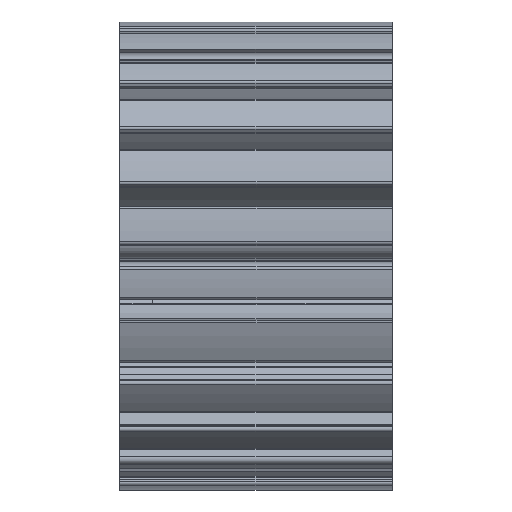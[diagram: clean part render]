
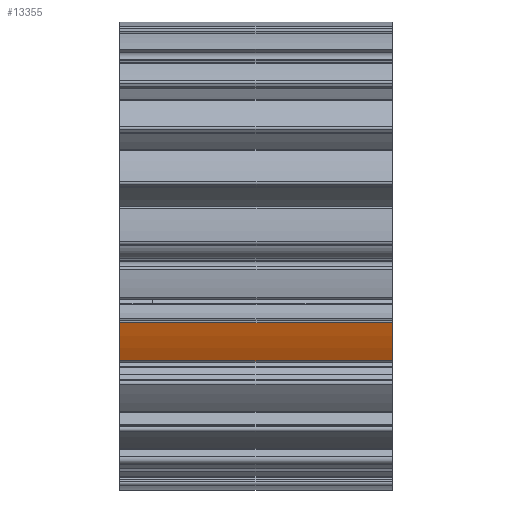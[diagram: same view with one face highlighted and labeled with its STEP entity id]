
A CAD part, left-side view. The second image highlights one B-rep face of the part: STEP entity #13355.
In plain terms, the highlighted cylindrical face has radius 43 mm (diameter 86 mm), a partial arc.
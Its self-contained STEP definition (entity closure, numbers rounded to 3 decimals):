
#237 = ORIENTED_EDGE ( 'NONE', *, *, #2405, .T. ) ;
#377 = VERTEX_POINT ( 'NONE', #12265 ) ;
#1345 = DIRECTION ( 'NONE',  ( 0., 1., 0. ) ) ;
#1602 = EDGE_CURVE ( 'NONE', #17473, #5846, #14636, .T. ) ;
#1964 = CARTESIAN_POINT ( 'NONE',  ( -41.215, 24.172, -12.261 ) ) ;
#2405 = EDGE_CURVE ( 'NONE', #8678, #377, #17174, .T. ) ;
#2478 = CIRCLE ( 'NONE', #4130, 43. ) ;
#2624 = CARTESIAN_POINT ( 'NONE',  ( 0., 74.172, 0. ) ) ;
#3249 = FACE_OUTER_BOUND ( 'NONE', #14637, .T. ) ;
#3559 = AXIS2_PLACEMENT_3D ( 'NONE', #14717, #17411, #6667 ) ;
#3597 = EDGE_CURVE ( 'NONE', #8678, #5846, #2478, .T. ) ;
#4001 = DIRECTION ( 'NONE',  ( 0., 0., 1. ) ) ;
#4130 = AXIS2_PLACEMENT_3D ( 'NONE', #2624, #12098, #4001 ) ;
#4599 = DIRECTION ( 'NONE',  ( 0., -1., 0. ) ) ;
#5379 = CARTESIAN_POINT ( 'NONE',  ( 0., 24.172, 0. ) ) ;
#5737 = AXIS2_PLACEMENT_3D ( 'NONE', #5379, #14833, #6767 ) ;
#5846 = VERTEX_POINT ( 'NONE', #9437 ) ;
#5999 = CARTESIAN_POINT ( 'NONE',  ( -38.466, -4.487, -19.218 ) ) ;
#6667 = DIRECTION ( 'NONE',  ( 0., 0., 1. ) ) ;
#6767 = DIRECTION ( 'NONE',  ( 0., 0., -1. ) ) ;
#8678 = VERTEX_POINT ( 'NONE', #16858 ) ;
#9236 = ORIENTED_EDGE ( 'NONE', *, *, #10729, .T. ) ;
#9437 = CARTESIAN_POINT ( 'NONE',  ( -41.215, 74.172, -12.261 ) ) ;
#10729 = EDGE_CURVE ( 'NONE', #377, #17473, #16770, .T. ) ;
#11230 = VECTOR ( 'NONE', #4599, 1000. ) ;
#11460 = VECTOR ( 'NONE', #1345, 1000. ) ;
#12098 = DIRECTION ( 'NONE',  ( 0., 1., 0. ) ) ;
#12265 = CARTESIAN_POINT ( 'NONE',  ( -38.466, 24.172, -19.218 ) ) ;
#13355 = ADVANCED_FACE ( 'NONE', ( #3249 ), #13626, .T. ) ;
#13626 = CYLINDRICAL_SURFACE ( 'NONE', #3559, 43. ) ;
#14107 = ORIENTED_EDGE ( 'NONE', *, *, #1602, .T. ) ;
#14248 = ORIENTED_EDGE ( 'NONE', *, *, #3597, .F. ) ;
#14636 = LINE ( 'NONE', #16232, #11460 ) ;
#14637 = EDGE_LOOP ( 'NONE', ( #237, #9236, #14107, #14248 ) ) ;
#14717 = CARTESIAN_POINT ( 'NONE',  ( 0., -4.487, 0. ) ) ;
#14833 = DIRECTION ( 'NONE',  ( 0., 1., 0. ) ) ;
#16232 = CARTESIAN_POINT ( 'NONE',  ( -41.215, -2.95, -12.261 ) ) ;
#16770 = CIRCLE ( 'NONE', #5737, 43. ) ;
#16858 = CARTESIAN_POINT ( 'NONE',  ( -38.466, 74.172, -19.218 ) ) ;
#17174 = LINE ( 'NONE', #5999, #11230 ) ;
#17411 = DIRECTION ( 'NONE',  ( 0., 1., 0. ) ) ;
#17473 = VERTEX_POINT ( 'NONE', #1964 ) ;
